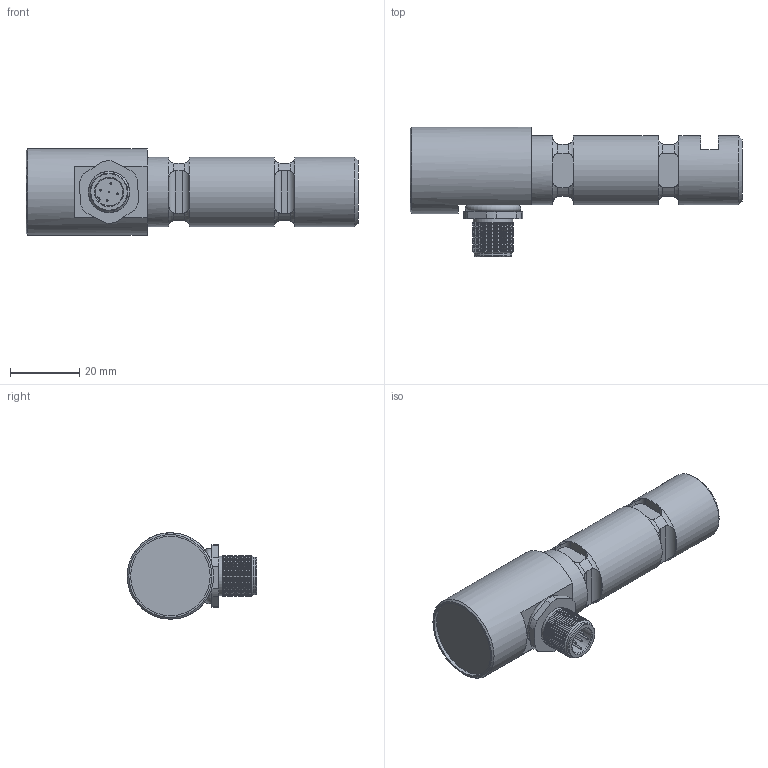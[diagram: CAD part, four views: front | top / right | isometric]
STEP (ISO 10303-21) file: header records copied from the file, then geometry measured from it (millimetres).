
FILE_DESCRIPTION(/* description */ ('Alibre Inc.'),/* implementation_level */ '2;1');
FILE_NAME(/* name */ 'export-E8A2589E-4BA0-422B-A00A-9AFDCDE0127E',/* time_stamp */ '2021-10-01T11:15:57+02:00',/* author */ (''),/* organization */ (''),/* preprocessor_version */ 'ST-DEVELOPER v17',/* originating_system */ 'Alibre',/* authorisation */ '');
FILE_SCHEMA (('CONFIG_CONTROL_DESIGN'));
Length unit declared in the file: millimetre
Bounding box: 96 x 37.5 x 25 mm (x, y, z)
Surface area: 161848.9 mm2
Topology: 7 solids, 8 shells, 257 faces, 571 edges, 337 vertices
Faces by surface type: cylinder 89, plane 79, cone 71, torus 18
Full cylindrical faces by diameter (mm): 0.5 x10, 8 x2, 10 x1, 11 x1, 11.5 x1, 12 x21, 13 x2, 14.5 x1, 20 x3, 23 x1, 25 x1
Entity records: 6385 total; most frequent: CARTESIAN_POINT 1625, ORIENTED_EDGE 930, DIRECTION 743, EDGE_CURVE 459, EDGE_LOOP 372, FACE_BOUND 372, AXIS2_PLACEMENT_3D 343, VERTEX_POINT 321
